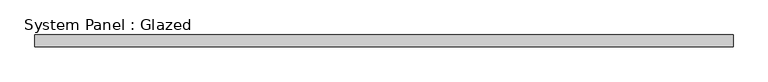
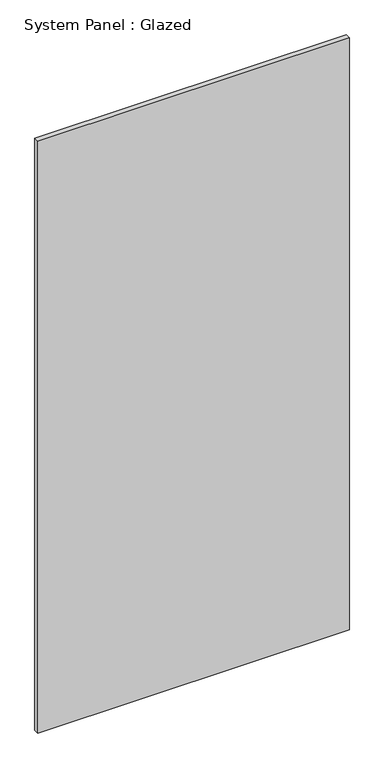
"""IFC4 building model written with IfcOpenShell, lengths in millimetres: plate geometry, System Panel : Glazed."""

from ifc_helpers import new_model, si_unit, origin, origin_with_axes, place, context, project, spatial, polyline, outline, extrude, source, transform, mapped, element, save


def system_panel_glazed_2d5e1d3d(model_context):
    return source(origin(), model_context, "Body", "SweptSolid", [
        extrude(outline(polyline([(749.3, -44.45), (-749.3, -44.45), (-749.3, -19.05), (749.3, -19.05), (749.3, -44.45)])), origin_with_axes(), (0.0, 0.0, 1.0), 3009.9),
    ])


if __name__ == "__main__":
    model = new_model("IFC4")
    model_context = context("Model", 3, world=origin())
    ifc_project = project(units=[si_unit("LENGTHUNIT", "METRE", prefix="MILLI")], contexts=[model_context])
    site = spatial("IfcSite", under=ifc_project)
    building = spatial("IfcBuilding", under=site)
    placement = place(None, origin())
    system_panel_glazed_shape = system_panel_glazed_2d5e1d3d(model_context)
    element("IfcPlate", 1, ObjectType="System Panel : Glazed", at=placement, inside=building, context=model_context, shape_type="MappedRepresentation", body=[
        mapped(system_panel_glazed_shape, transform((0.0, 0.0, 0.0), x_axis=(1.0, 0.0, 0.0), y_axis=(0.0, 1.0, 0.0), z_axis=(0.0, 0.0, 1.0))),
    ])
    save(model, "model.ifc")
